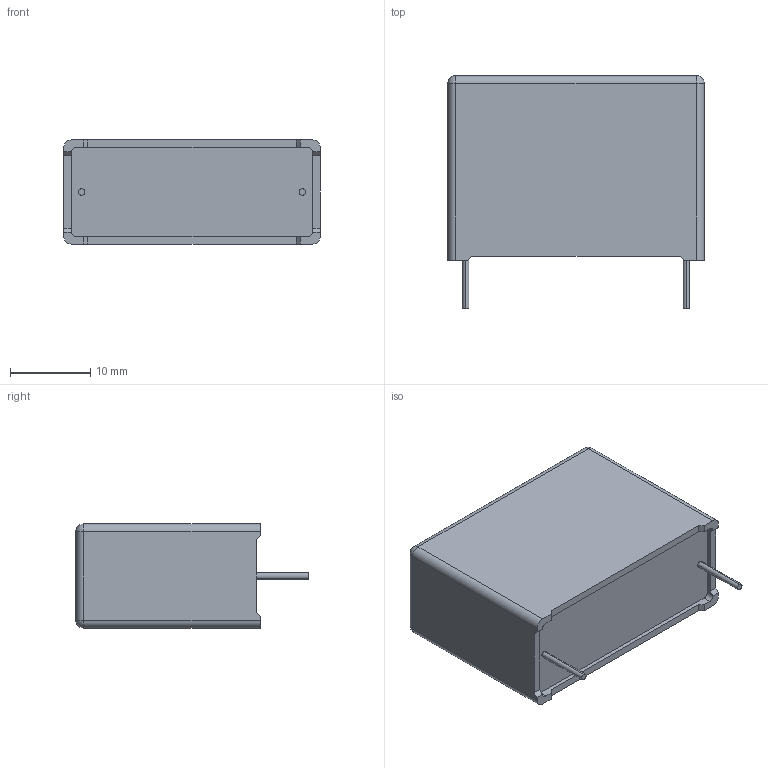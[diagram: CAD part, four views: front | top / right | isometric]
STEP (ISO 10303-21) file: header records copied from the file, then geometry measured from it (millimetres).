
FILE_DESCRIPTION (( 'STEP AP203' ), '1' );
FILE_NAME ('DC_Link_13x23x32_2pins.step', '2017-04-03T15:59:43', ( 'work' ), ( 'Hewlett-Packard Company' ), 'SwSTEP 2.0', 'SolidWorks 2017', '' );
FILE_SCHEMA (( 'CONFIG_CONTROL_DESIGN' ));
Length unit declared in the file: millimetre
Products named in the file (1): DC_Link_13x23x32_2pins
Bounding box: 32 x 29 x 13 mm (x, y, z)
Volume: 9168.6 mm3; surface area: 2868.7 mm2
Topology: 1 solids, 1 shells, 116 faces, 307 edges, 198 vertices
Faces by surface type: plane 80, cylinder 16, bspline 16, sphere 4
Entity records: 4292 total; most frequent: CARTESIAN_POINT 1454, ORIENTED_EDGE 606, DIRECTION 501, EDGE_CURVE 303, LINE 235, VECTOR 235, VERTEX_POINT 198, AXIS2_PLACEMENT_3D 133
